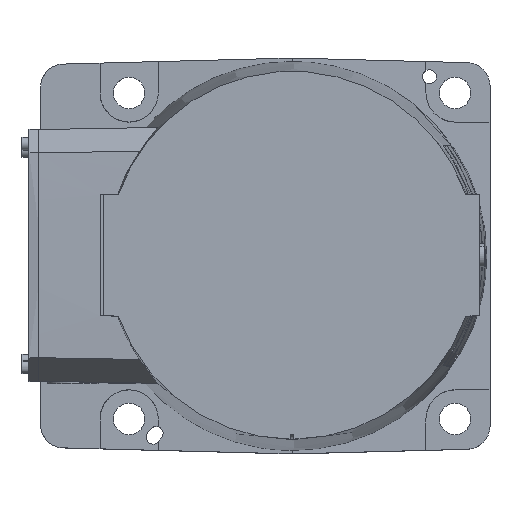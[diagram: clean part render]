
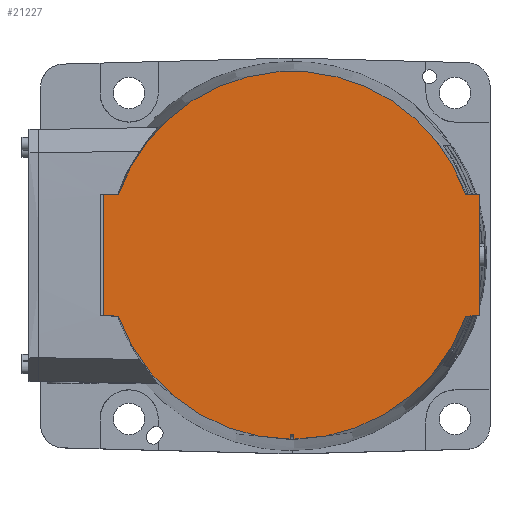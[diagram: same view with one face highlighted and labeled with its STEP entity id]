
A CAD part, top view. The second image highlights one B-rep face of the part: STEP entity #21227.
In plain terms, the highlighted planar face has unit normal (0, 0, 1).
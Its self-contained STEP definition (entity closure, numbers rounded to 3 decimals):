
#355 = EDGE_CURVE ( 'NONE', #24997, #17697, #21491, .T. ) ;
#555 = CARTESIAN_POINT ( 'NONE',  ( 0.479, -27.414, 191.4 ) ) ;
#621 = LINE ( 'NONE', #31638, #22766 ) ;
#1082 = DIRECTION ( 'NONE',  ( 0., 0., -1. ) ) ;
#1880 = VECTOR ( 'NONE', #24513, 1000. ) ;
#1892 = LINE ( 'NONE', #3966, #20047 ) ;
#2047 = VERTEX_POINT ( 'NONE', #15239 ) ;
#2591 = AXIS2_PLACEMENT_3D ( 'NONE', #18740, #11049, #13735 ) ;
#2863 = CARTESIAN_POINT ( 'NONE',  ( 0.75, -77., 191.4 ) ) ;
#3328 = VERTEX_POINT ( 'NONE', #29685 ) ;
#3455 = ORIENTED_EDGE ( 'NONE', *, *, #355, .T. ) ;
#3922 = CARTESIAN_POINT ( 'NONE',  ( -0.75, -77., 191.4 ) ) ;
#3959 = VERTEX_POINT ( 'NONE', #25407 ) ;
#3966 = CARTESIAN_POINT ( 'NONE',  ( -81., 0., 191.4 ) ) ;
#4192 = CARTESIAN_POINT ( 'NONE',  ( -0.75, 0., 191.4 ) ) ;
#4253 = DIRECTION ( 'NONE',  ( 0., 1., 0. ) ) ;
#4620 = LINE ( 'NONE', #9193, #19170 ) ;
#5192 = VERTEX_POINT ( 'NONE', #28809 ) ;
#5301 = ORIENTED_EDGE ( 'NONE', *, *, #32786, .F. ) ;
#5755 = DIRECTION ( 'NONE',  ( 1., 0., 0. ) ) ;
#5814 = DIRECTION ( 'NONE',  ( 1., 0., 0. ) ) ;
#6640 = FACE_OUTER_BOUND ( 'NONE', #33373, .T. ) ;
#7551 = ORIENTED_EDGE ( 'NONE', *, *, #18955, .F. ) ;
#8099 = EDGE_CURVE ( 'NONE', #10283, #3959, #19600, .T. ) ;
#9193 = CARTESIAN_POINT ( 'NONE',  ( 0.75, 0., 191.4 ) ) ;
#9217 = CARTESIAN_POINT ( 'NONE',  ( 81.5, 26., 191.4 ) ) ;
#9982 = CIRCLE ( 'NONE', #20901, 78.988 ) ;
#9995 = ORIENTED_EDGE ( 'NONE', *, *, #19927, .F. ) ;
#10283 = VERTEX_POINT ( 'NONE', #15009 ) ;
#11049 = DIRECTION ( 'NONE',  ( 0., 0., -1. ) ) ;
#11065 = ORIENTED_EDGE ( 'NONE', *, *, #18419, .F. ) ;
#11212 = LINE ( 'NONE', #30323, #28137 ) ;
#11389 = DIRECTION ( 'NONE',  ( 1., 0., 0. ) ) ;
#11739 = DIRECTION ( 'NONE',  ( 0., 1., 0. ) ) ;
#11950 = ORIENTED_EDGE ( 'NONE', *, *, #19198, .F. ) ;
#12056 = LINE ( 'NONE', #19108, #13238 ) ;
#13238 = VECTOR ( 'NONE', #21879, 1000. ) ;
#13242 = EDGE_CURVE ( 'NONE', #15184, #5192, #28903, .T. ) ;
#13399 = DIRECTION ( 'NONE',  ( 1., 0., 0. ) ) ;
#13630 = DIRECTION ( 'NONE',  ( 0., 0., -1. ) ) ;
#13735 = DIRECTION ( 'NONE',  ( 1., 0., 0. ) ) ;
#14165 = DIRECTION ( 'NONE',  ( 1., -0.017, 0. ) ) ;
#14416 = DIRECTION ( 'NONE',  ( 0., 1., 0. ) ) ;
#14567 = ORIENTED_EDGE ( 'NONE', *, *, #27404, .T. ) ;
#14729 = LINE ( 'NONE', #555, #27612 ) ;
#15009 = CARTESIAN_POINT ( 'NONE',  ( 74.544, 26.121, 191.4 ) ) ;
#15171 = ORIENTED_EDGE ( 'NONE', *, *, #18070, .T. ) ;
#15184 = VERTEX_POINT ( 'NONE', #16273 ) ;
#15239 = CARTESIAN_POINT ( 'NONE',  ( 74.544, -26.121, 191.4 ) ) ;
#15419 = VECTOR ( 'NONE', #14165, 1000. ) ;
#16114 = PLANE ( 'NONE',  #2591 ) ;
#16273 = CARTESIAN_POINT ( 'NONE',  ( -74.544, -26.121, 191.4 ) ) ;
#17697 = VERTEX_POINT ( 'NONE', #3922 ) ;
#17859 = VERTEX_POINT ( 'NONE', #2863 ) ;
#18070 = EDGE_CURVE ( 'NONE', #24488, #29756, #12056, .T. ) ;
#18419 = EDGE_CURVE ( 'NONE', #24997, #15184, #22502, .T. ) ;
#18633 = CARTESIAN_POINT ( 'NONE',  ( -74.544, 26.121, 191.4 ) ) ;
#18740 = CARTESIAN_POINT ( 'NONE',  ( 0., 0., 191.4 ) ) ;
#18919 = CARTESIAN_POINT ( 'NONE',  ( -0.479, -27.414, 191.4 ) ) ;
#18955 = EDGE_CURVE ( 'NONE', #3959, #3328, #11212, .T. ) ;
#19074 = CARTESIAN_POINT ( 'NONE',  ( 0., 0., 191.4 ) ) ;
#19108 = CARTESIAN_POINT ( 'NONE',  ( -81.5, 26., 191.4 ) ) ;
#19170 = VECTOR ( 'NONE', #4253, 1000. ) ;
#19198 = EDGE_CURVE ( 'NONE', #24488, #10283, #9982, .T. ) ;
#19600 = LINE ( 'NONE', #9217, #15419 ) ;
#19784 = ORIENTED_EDGE ( 'NONE', *, *, #27244, .T. ) ;
#19927 = EDGE_CURVE ( 'NONE', #5192, #29756, #1892, .T. ) ;
#20047 = VECTOR ( 'NONE', #14416, 1000. ) ;
#20697 = CARTESIAN_POINT ( 'NONE',  ( -0.75, -78.984, 191.4 ) ) ;
#20901 = AXIS2_PLACEMENT_3D ( 'NONE', #31420, #21175, #5755 ) ;
#21150 = DIRECTION ( 'NONE',  ( 1., 0.017, 0. ) ) ;
#21160 = VERTEX_POINT ( 'NONE', #28958 ) ;
#21175 = DIRECTION ( 'NONE',  ( 0., 0., -1. ) ) ;
#21227 = ADVANCED_FACE ( 'NONE', ( #6640 ), #16114, .F. ) ;
#21377 = ORIENTED_EDGE ( 'NONE', *, *, #27989, .F. ) ;
#21491 = LINE ( 'NONE', #4192, #27957 ) ;
#21879 = DIRECTION ( 'NONE',  ( -1., -0.017, 0. ) ) ;
#22502 = CIRCLE ( 'NONE', #23705, 78.988 ) ;
#22766 = VECTOR ( 'NONE', #13399, 1000. ) ;
#22937 = AXIS2_PLACEMENT_3D ( 'NONE', #19074, #13630, #11389 ) ;
#23705 = AXIS2_PLACEMENT_3D ( 'NONE', #23712, #1082, #5814 ) ;
#23712 = CARTESIAN_POINT ( 'NONE',  ( 0., 0., 191.4 ) ) ;
#24488 = VERTEX_POINT ( 'NONE', #18633 ) ;
#24513 = DIRECTION ( 'NONE',  ( -1., 0.017, 0. ) ) ;
#24997 = VERTEX_POINT ( 'NONE', #20697 ) ;
#25407 = CARTESIAN_POINT ( 'NONE',  ( 80.5, 26.017, 191.4 ) ) ;
#25797 = CARTESIAN_POINT ( 'NONE',  ( -81., 26.009, 191.4 ) ) ;
#25815 = ORIENTED_EDGE ( 'NONE', *, *, #13242, .F. ) ;
#26365 = CIRCLE ( 'NONE', #22937, 78.988 ) ;
#27244 = EDGE_CURVE ( 'NONE', #2047, #3328, #14729, .T. ) ;
#27404 = EDGE_CURVE ( 'NONE', #17697, #17859, #621, .T. ) ;
#27612 = VECTOR ( 'NONE', #21150, 1000. ) ;
#27945 = DIRECTION ( 'NONE',  ( 0., -1., 0. ) ) ;
#27957 = VECTOR ( 'NONE', #11739, 1000. ) ;
#27989 = EDGE_CURVE ( 'NONE', #21160, #17859, #4620, .T. ) ;
#28137 = VECTOR ( 'NONE', #27945, 1000. ) ;
#28809 = CARTESIAN_POINT ( 'NONE',  ( -81., -26.009, 191.4 ) ) ;
#28903 = LINE ( 'NONE', #18919, #1880 ) ;
#28958 = CARTESIAN_POINT ( 'NONE',  ( 0.75, -78.984, 191.4 ) ) ;
#29685 = CARTESIAN_POINT ( 'NONE',  ( 80.5, -26.017, 191.4 ) ) ;
#29756 = VERTEX_POINT ( 'NONE', #25797 ) ;
#30318 = ORIENTED_EDGE ( 'NONE', *, *, #8099, .F. ) ;
#30323 = CARTESIAN_POINT ( 'NONE',  ( 80.5, 0., 191.4 ) ) ;
#31420 = CARTESIAN_POINT ( 'NONE',  ( 0., 0., 191.4 ) ) ;
#31638 = CARTESIAN_POINT ( 'NONE',  ( 0., -77., 191.4 ) ) ;
#32786 = EDGE_CURVE ( 'NONE', #2047, #21160, #26365, .T. ) ;
#33373 = EDGE_LOOP ( 'NONE', ( #21377, #5301, #19784, #7551, #30318, #11950, #15171, #9995, #25815, #11065, #3455, #14567 ) ) ;
